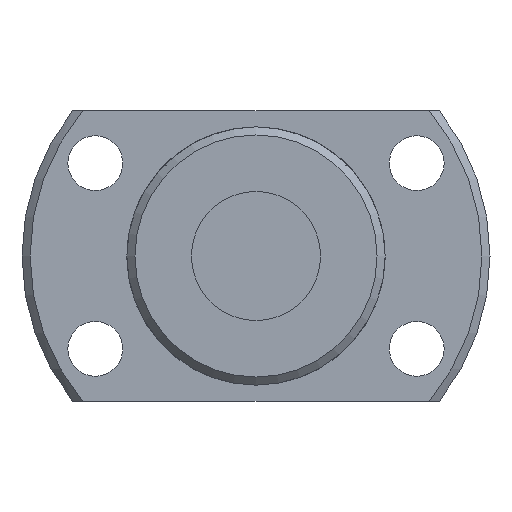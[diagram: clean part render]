
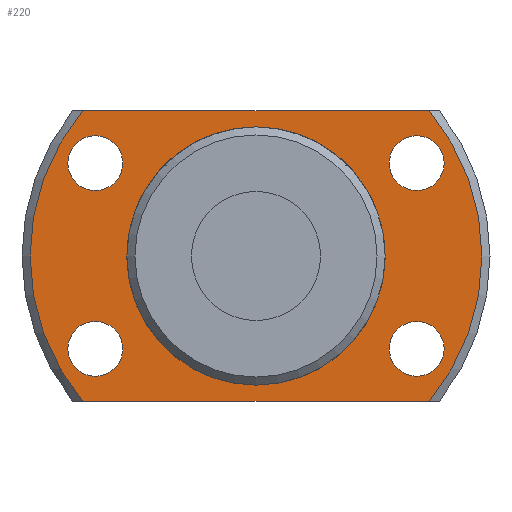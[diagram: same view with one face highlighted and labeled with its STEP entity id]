
A CAD part, left-side view. The second image highlights one B-rep face of the part: STEP entity #220.
In plain terms, the highlighted planar face has unit normal (-1, 0, 0).
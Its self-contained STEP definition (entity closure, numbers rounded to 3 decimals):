
#220 = ADVANCED_FACE( '', ( #347, #348, #349, #350, #351, #352 ), #353, .F. );
#347 = FACE_OUTER_BOUND( '', #482, .T. );
#348 = FACE_BOUND( '', #483, .T. );
#349 = FACE_BOUND( '', #484, .T. );
#350 = FACE_BOUND( '', #485, .T. );
#351 = FACE_BOUND( '', #486, .T. );
#352 = FACE_BOUND( '', #487, .T. );
#353 = PLANE( '', #488 );
#482 = EDGE_LOOP( '', ( #870, #871, #872, #873 ) );
#483 = EDGE_LOOP( '', ( #874 ) );
#484 = EDGE_LOOP( '', ( #875 ) );
#485 = EDGE_LOOP( '', ( #876 ) );
#486 = EDGE_LOOP( '', ( #877 ) );
#487 = EDGE_LOOP( '', ( #878 ) );
#488 = AXIS2_PLACEMENT_3D( '', #879, #880, #881 );
#870 = ORIENTED_EDGE( '', *, *, #936, .F. );
#871 = ORIENTED_EDGE( '', *, *, #1018, .T. );
#872 = ORIENTED_EDGE( '', *, *, #1012, .F. );
#873 = ORIENTED_EDGE( '', *, *, #930, .T. );
#874 = ORIENTED_EDGE( '', *, *, #980, .T. );
#875 = ORIENTED_EDGE( '', *, *, #978, .T. );
#876 = ORIENTED_EDGE( '', *, *, #976, .T. );
#877 = ORIENTED_EDGE( '', *, *, #974, .T. );
#878 = ORIENTED_EDGE( '', *, *, #1014, .T. );
#879 = CARTESIAN_POINT( '', ( 13., 7.75, 0. ) );
#880 = DIRECTION( '', ( 1., 0., 0. ) );
#881 = DIRECTION( '', ( 0., 0., -1. ) );
#930 = EDGE_CURVE( '', #1077, #1075, #1078, .T. );
#936 = EDGE_CURVE( '', #1088, #1075, #1089, .T. );
#974 = EDGE_CURVE( '', #1156, #1156, #1157, .T. );
#976 = EDGE_CURVE( '', #1160, #1160, #1161, .T. );
#978 = EDGE_CURVE( '', #1164, #1164, #1165, .T. );
#980 = EDGE_CURVE( '', #1168, #1168, #1169, .T. );
#1012 = EDGE_CURVE( '', #1077, #1217, #1218, .T. );
#1014 = EDGE_CURVE( '', #1220, #1220, #1221, .T. );
#1018 = EDGE_CURVE( '', #1088, #1217, #1226, .T. );
#1075 = VERTEX_POINT( '', #1324 );
#1077 = VERTEX_POINT( '', #1329 );
#1078 = LINE( '', #1330, #1331 );
#1088 = VERTEX_POINT( '', #1352 );
#1089 = CIRCLE( '', #1353, 14. );
#1156 = VERTEX_POINT( '', #1459 );
#1157 = CIRCLE( '', #1460, 1.7 );
#1160 = VERTEX_POINT( '', #1463 );
#1161 = CIRCLE( '', #1464, 1.7 );
#1164 = VERTEX_POINT( '', #1467 );
#1165 = CIRCLE( '', #1468, 1.7 );
#1168 = VERTEX_POINT( '', #1471 );
#1169 = CIRCLE( '', #1472, 1.7 );
#1217 = VERTEX_POINT( '', #1541 );
#1218 = CIRCLE( '', #1542, 14. );
#1220 = VERTEX_POINT( '', #1547 );
#1221 = CIRCLE( '', #1548, 7.75 );
#1226 = LINE( '', #1553, #1554 );
#1324 = CARTESIAN_POINT( '', ( 13., 10.724, 9. ) );
#1329 = CARTESIAN_POINT( '', ( 13., -10.724, 9. ) );
#1330 = CARTESIAN_POINT( '', ( 13., 7.75, 9. ) );
#1331 = VECTOR( '', #1604, 1000. );
#1352 = CARTESIAN_POINT( '', ( 13., 10.724, -9. ) );
#1353 = AXIS2_PLACEMENT_3D( '', #1607, #1608, #1609 );
#1459 = CARTESIAN_POINT( '', ( 13., 9.959, 4.05 ) );
#1460 = AXIS2_PLACEMENT_3D( '', #1670, #1671, #1672 );
#1463 = CARTESIAN_POINT( '', ( 13., 9.959, -7.45 ) );
#1464 = AXIS2_PLACEMENT_3D( '', #1676, #1677, #1678 );
#1467 = CARTESIAN_POINT( '', ( 13., -9.959, -7.45 ) );
#1468 = AXIS2_PLACEMENT_3D( '', #1682, #1683, #1684 );
#1471 = CARTESIAN_POINT( '', ( 13., -9.959, 4.05 ) );
#1472 = AXIS2_PLACEMENT_3D( '', #1688, #1689, #1690 );
#1541 = CARTESIAN_POINT( '', ( 13., -10.724, -9. ) );
#1542 = AXIS2_PLACEMENT_3D( '', #1748, #1749, #1750 );
#1547 = CARTESIAN_POINT( '', ( 13., 0., -7.75 ) );
#1548 = AXIS2_PLACEMENT_3D( '', #1751, #1752, #1753 );
#1553 = CARTESIAN_POINT( '', ( 13., 7.75, -9. ) );
#1554 = VECTOR( '', #1763, 1000. );
#1604 = DIRECTION( '', ( 0., 1., 0. ) );
#1607 = CARTESIAN_POINT( '', ( 13., 0., 0. ) );
#1608 = DIRECTION( '', ( 1., 0., 0. ) );
#1609 = DIRECTION( '', ( 0., 0., -1. ) );
#1670 = CARTESIAN_POINT( '', ( 13., 9.959, 5.75 ) );
#1671 = DIRECTION( '', ( 1., 0., 0. ) );
#1672 = DIRECTION( '', ( 0., 0., -1. ) );
#1676 = CARTESIAN_POINT( '', ( 13., 9.959, -5.75 ) );
#1677 = DIRECTION( '', ( 1., 0., 0. ) );
#1678 = DIRECTION( '', ( 0., 0., -1. ) );
#1682 = CARTESIAN_POINT( '', ( 13., -9.959, -5.75 ) );
#1683 = DIRECTION( '', ( 1., 0., 0. ) );
#1684 = DIRECTION( '', ( 0., 0., -1. ) );
#1688 = CARTESIAN_POINT( '', ( 13., -9.959, 5.75 ) );
#1689 = DIRECTION( '', ( 1., 0., 0. ) );
#1690 = DIRECTION( '', ( 0., 0., -1. ) );
#1748 = CARTESIAN_POINT( '', ( 13., 0., 0. ) );
#1749 = DIRECTION( '', ( 1., 0., 0. ) );
#1750 = DIRECTION( '', ( 0., 0., -1. ) );
#1751 = CARTESIAN_POINT( '', ( 13., 0., 0. ) );
#1752 = DIRECTION( '', ( 1., 0., 0. ) );
#1753 = DIRECTION( '', ( 0., 0., -1. ) );
#1763 = DIRECTION( '', ( 0., -1., 0. ) );
